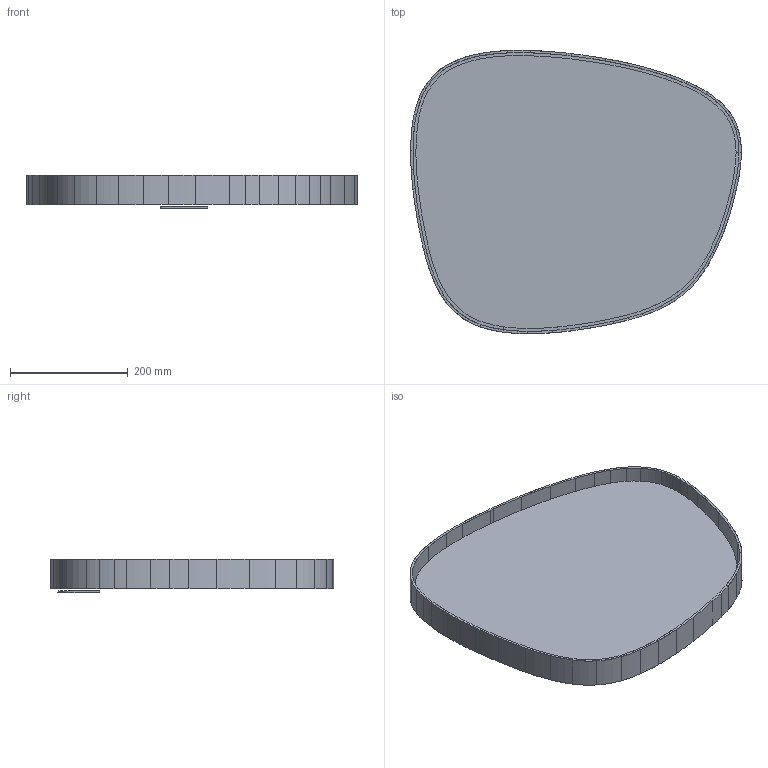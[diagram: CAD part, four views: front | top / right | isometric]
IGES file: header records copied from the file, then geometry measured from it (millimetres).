
Start section: SolidWorks IGES file using analytic representation for surfaces
Global section: file name: C:\VaultDeCastelli\Progetti\DC\PESO LEGGERO PRODOTTI\Ale\DeCastelli-3D-Syro Mirror 56.igs; native system: SolidWorks 2022; preprocessor: SolidWorks 2022; author: AlessandroP; date: 240726.104148; units: millimetre
Bounding box: 560.51 x 480.28 x 56 mm (x, y, z)
Surface area: 910706.1 mm2 (no closed solid volume)
Topology: 0 solids, 0 shells, 354 faces, 3232 edges, 3232 vertices
Faces by surface type: revolution 179, bspline 175
